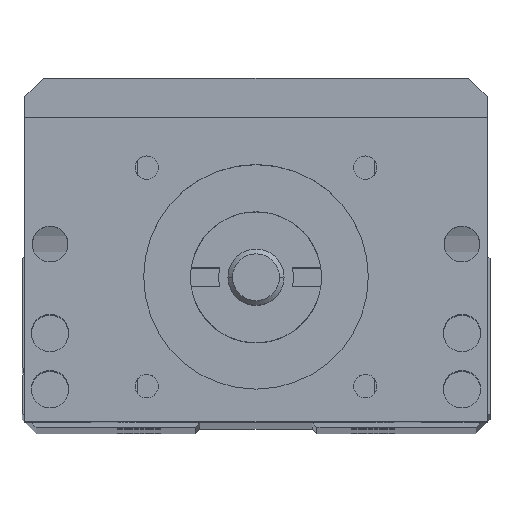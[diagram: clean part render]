
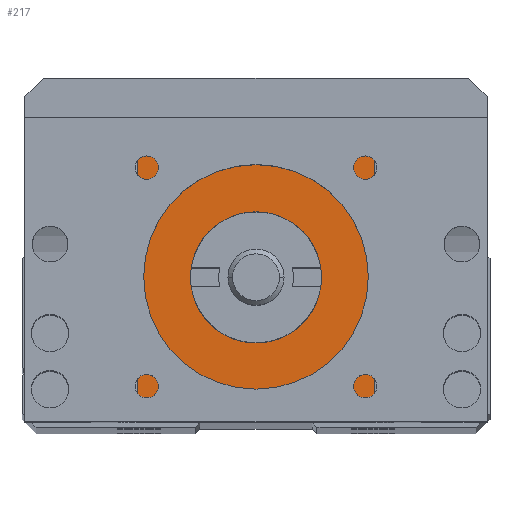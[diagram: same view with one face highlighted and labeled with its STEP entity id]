
A CAD part, top view. The second image highlights one B-rep face of the part: STEP entity #217.
In plain terms, the highlighted planar face has unit normal (0, 0, 1).
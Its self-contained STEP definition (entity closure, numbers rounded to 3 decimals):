
#211 = ORIENTED_EDGE ( 'NONE', *, *, #229, .F. ) ;
#214 = EDGE_LOOP ( 'NONE', ( #211, #227, #241, #242 ) ) ;
#217 = ADVANCED_FACE ( 'NONE', ( #3791, #3789 ), #3790, .F. ) ;
#220 = VERTEX_POINT ( 'NONE', #3802 ) ;
#223 = VERTEX_POINT ( 'NONE', #3843 ) ;
#227 = ORIENTED_EDGE ( 'NONE', *, *, #231, .T. ) ;
#229 = EDGE_CURVE ( 'NONE', #223, #220, #3831, .T. ) ;
#230 = EDGE_CURVE ( 'NONE', #238, #240, #3826, .T. ) ;
#231 = EDGE_CURVE ( 'NONE', #223, #238, #3821, .T. ) ;
#232 = EDGE_CURVE ( 'NONE', #2315, #2316, #3829, .T. ) ;
#237 = ORIENTED_EDGE ( 'NONE', *, *, #2309, .F. ) ;
#238 = VERTEX_POINT ( 'NONE', #3878 ) ;
#239 = ORIENTED_EDGE ( 'NONE', *, *, #232, .F. ) ;
#240 = VERTEX_POINT ( 'NONE', #3870 ) ;
#241 = ORIENTED_EDGE ( 'NONE', *, *, #230, .T. ) ;
#242 = ORIENTED_EDGE ( 'NONE', *, *, #244, .T. ) ;
#243 = EDGE_LOOP ( 'NONE', ( #239, #237 ) ) ;
#244 = EDGE_CURVE ( 'NONE', #240, #220, #3871, .T. ) ;
#2309 = EDGE_CURVE ( 'NONE', #2316, #2315, #7637, .T. ) ;
#2315 = VERTEX_POINT ( 'NONE', #7623 ) ;
#2316 = VERTEX_POINT ( 'NONE', #7632 ) ;
#3784 = CARTESIAN_POINT ( 'NONE',  ( -14.7, 0., 211.5 ) ) ;
#3788 = AXIS2_PLACEMENT_3D ( 'NONE', #3784, #3839, #3838 ) ;
#3789 = FACE_BOUND ( 'NONE', #243, .T. ) ;
#3790 = PLANE ( 'NONE',  #3788 ) ;
#3791 = FACE_OUTER_BOUND ( 'NONE', #214, .T. ) ;
#3802 = CARTESIAN_POINT ( 'NONE',  ( -12.7, 0.5, 211.5 ) ) ;
#3812 = CARTESIAN_POINT ( 'NONE',  ( 0., 16., 211.5 ) ) ;
#3813 = DIRECTION ( 'NONE',  ( 0., -1., 0. ) ) ;
#3814 = CARTESIAN_POINT ( 'NONE',  ( -12.7, 0.5, 211.5 ) ) ;
#3818 = DIRECTION ( 'NONE',  ( 0., 1., 0. ) ) ;
#3819 = VECTOR ( 'NONE', #3818, 1000. ) ;
#3820 = CARTESIAN_POINT ( 'NONE',  ( 12.7, 33., 211.5 ) ) ;
#3821 = LINE ( 'NONE', #3820, #3819 ) ;
#3823 = DIRECTION ( 'NONE',  ( -1., 0., 0. ) ) ;
#3824 = VECTOR ( 'NONE', #3823, 1000. ) ;
#3825 = CARTESIAN_POINT ( 'NONE',  ( -14.7, 33., 211.5 ) ) ;
#3826 = LINE ( 'NONE', #3825, #3824 ) ;
#3827 = DIRECTION ( 'NONE',  ( -1., 0., 0. ) ) ;
#3828 = VECTOR ( 'NONE', #3827, 1000. ) ;
#3829 = CIRCLE ( 'NONE', #3842, 7. ) ;
#3830 = CARTESIAN_POINT ( 'NONE',  ( -6.008, 0.5, 211.5 ) ) ;
#3831 = LINE ( 'NONE', #3830, #3828 ) ;
#3838 = DIRECTION ( 'NONE',  ( -1., 0., 0. ) ) ;
#3839 = DIRECTION ( 'NONE',  ( 0., 0., -1. ) ) ;
#3842 = AXIS2_PLACEMENT_3D ( 'NONE', #3812, #3844, #3879 ) ;
#3843 = CARTESIAN_POINT ( 'NONE',  ( 12.7, 0.5, 211.5 ) ) ;
#3844 = DIRECTION ( 'NONE',  ( 0., 0., 1. ) ) ;
#3867 = VECTOR ( 'NONE', #3813, 1000. ) ;
#3870 = CARTESIAN_POINT ( 'NONE',  ( -12.7, 33., 211.5 ) ) ;
#3871 = LINE ( 'NONE', #3814, #3867 ) ;
#3878 = CARTESIAN_POINT ( 'NONE',  ( 12.7, 33., 211.5 ) ) ;
#3879 = DIRECTION ( 'NONE',  ( -1., 0., 0. ) ) ;
#7623 = CARTESIAN_POINT ( 'NONE',  ( -7., 16., 211.5 ) ) ;
#7627 = DIRECTION ( 'NONE',  ( -1., 0., 0. ) ) ;
#7628 = DIRECTION ( 'NONE',  ( 0., 0., 1. ) ) ;
#7629 = CARTESIAN_POINT ( 'NONE',  ( 0., 16., 211.5 ) ) ;
#7630 = AXIS2_PLACEMENT_3D ( 'NONE', #7629, #7628, #7627 ) ;
#7632 = CARTESIAN_POINT ( 'NONE',  ( 7., 16., 211.5 ) ) ;
#7637 = CIRCLE ( 'NONE', #7630, 7. ) ;
